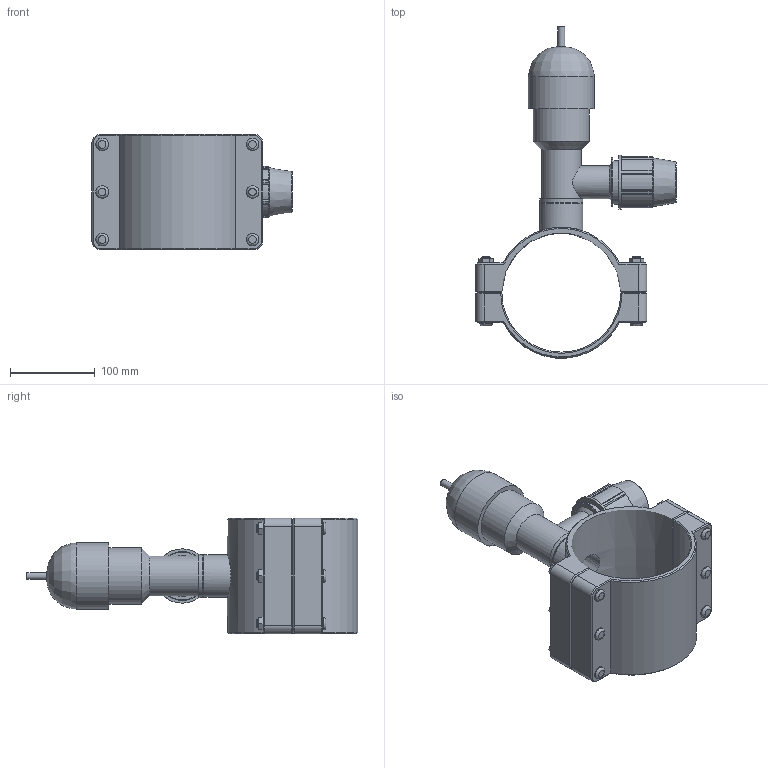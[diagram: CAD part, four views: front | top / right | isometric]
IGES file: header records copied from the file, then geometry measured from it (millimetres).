
Global section: file name: 186800140032.ipt; native system: Autodesk Inventor 2015; preprocessor: unknown; author: KIM; date: 20170618.094032; units: millimetre
Bounding box: 235.5 x 390.73 x 136 mm (x, y, z)
Volume: 1578050.7 mm3; surface area: 268015.2 mm2
Topology: 1 solids, 1 shells, 252 faces, 623 edges, 405 vertices
Faces by surface type: plane 151, cylinder 49, cone 31, revolution 21
Full cylindrical faces by diameter (mm): 8.19 x1, 10 x6, 15 x12, 38.4 x1, 38.952 x1, 46.742 x1, 50.638 x2, 51.2 x1, 57.6 x1, 64 x1, 66.218 x1, 77.904 x1
